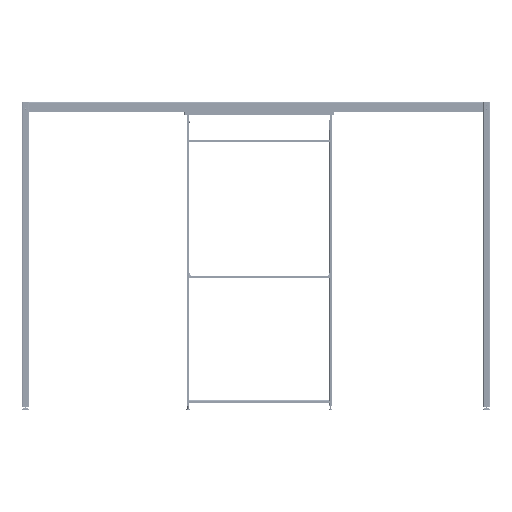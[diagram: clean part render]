
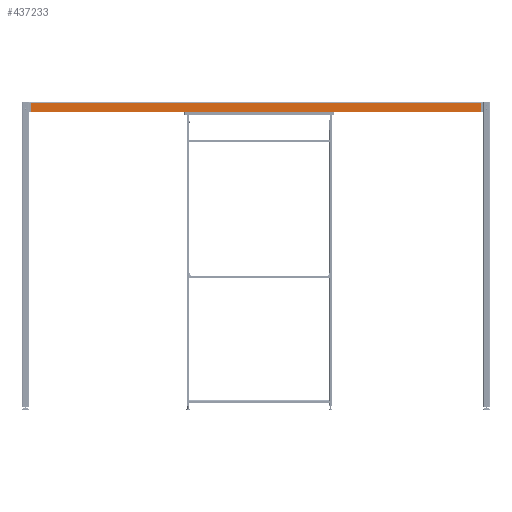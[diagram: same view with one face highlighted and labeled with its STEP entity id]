
A CAD part, front view. The second image highlights one B-rep face of the part: STEP entity #437233.
In plain terms, the highlighted planar face has unit normal (0, -1, 0).
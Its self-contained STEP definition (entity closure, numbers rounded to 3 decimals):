
#3637 = DIRECTION ( 'NONE',  ( 0., -1., 0. ) ) ;
#33913 = EDGE_CURVE ( 'NONE', #65879, #379215, #206195, .T. ) ;
#34860 = VECTOR ( 'NONE', #221262, 1000. ) ;
#57023 = LINE ( 'NONE', #324668, #34860 ) ;
#60786 = VECTOR ( 'NONE', #439028, 1000. ) ;
#62293 = DIRECTION ( 'NONE',  ( 0., 0., 1. ) ) ;
#65879 = VERTEX_POINT ( 'NONE', #129922 ) ;
#106105 = ORIENTED_EDGE ( 'NONE', *, *, #147662, .F. ) ;
#129922 = CARTESIAN_POINT ( 'NONE',  ( -6012., -8286.5, 2715. ) ) ;
#138106 = EDGE_CURVE ( 'NONE', #379215, #320364, #57023, .T. ) ;
#143001 = FACE_OUTER_BOUND ( 'NONE', #338305, .T. ) ;
#147662 = EDGE_CURVE ( 'NONE', #412414, #320364, #161268, .T. ) ;
#161268 = LINE ( 'NONE', #298416, #407471 ) ;
#166667 = CARTESIAN_POINT ( 'NONE',  ( -10108., -8286.5, 2799. ) ) ;
#171246 = ORIENTED_EDGE ( 'NONE', *, *, #33913, .T. ) ;
#174515 = PLANE ( 'NONE',  #250169 ) ;
#206195 = LINE ( 'NONE', #246599, #288526 ) ;
#210789 = CARTESIAN_POINT ( 'NONE',  ( -6012., -8286.5, 2799. ) ) ;
#221262 = DIRECTION ( 'NONE',  ( -1., 0., 0. ) ) ;
#246599 = CARTESIAN_POINT ( 'NONE',  ( -6012., -8286.5, 2795.138 ) ) ;
#250169 = AXIS2_PLACEMENT_3D ( 'NONE', #311632, #3637, #347613 ) ;
#275910 = DIRECTION ( 'NONE',  ( 0., 0., 1. ) ) ;
#281879 = ORIENTED_EDGE ( 'NONE', *, *, #340719, .F. ) ;
#288526 = VECTOR ( 'NONE', #275910, 1000. ) ;
#298416 = CARTESIAN_POINT ( 'NONE',  ( -10108., -8286.5, 2795.138 ) ) ;
#311632 = CARTESIAN_POINT ( 'NONE',  ( -6012., -8286.5, 2795.138 ) ) ;
#320364 = VERTEX_POINT ( 'NONE', #166667 ) ;
#324668 = CARTESIAN_POINT ( 'NONE',  ( -6012., -8286.5, 2799. ) ) ;
#338305 = EDGE_LOOP ( 'NONE', ( #106105, #281879, #171246, #354358 ) ) ;
#340719 = EDGE_CURVE ( 'NONE', #65879, #412414, #369428, .T. ) ;
#343906 = CARTESIAN_POINT ( 'NONE',  ( -10108., -8286.5, 2715. ) ) ;
#347613 = DIRECTION ( 'NONE',  ( 1., 0., 0. ) ) ;
#354358 = ORIENTED_EDGE ( 'NONE', *, *, #138106, .T. ) ;
#369428 = LINE ( 'NONE', #409786, #60786 ) ;
#379215 = VERTEX_POINT ( 'NONE', #210789 ) ;
#407471 = VECTOR ( 'NONE', #62293, 1000. ) ;
#409786 = CARTESIAN_POINT ( 'NONE',  ( -6012., -8286.5, 2715. ) ) ;
#412414 = VERTEX_POINT ( 'NONE', #343906 ) ;
#437233 = ADVANCED_FACE ( 'NONE', ( #143001 ), #174515, .T. ) ;
#439028 = DIRECTION ( 'NONE',  ( -1., 0., 0. ) ) ;
